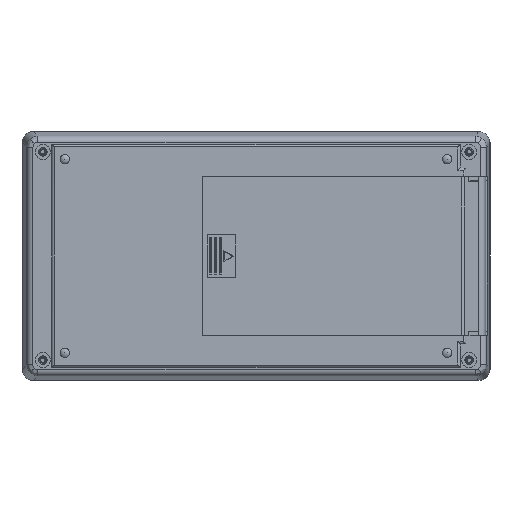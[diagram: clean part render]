
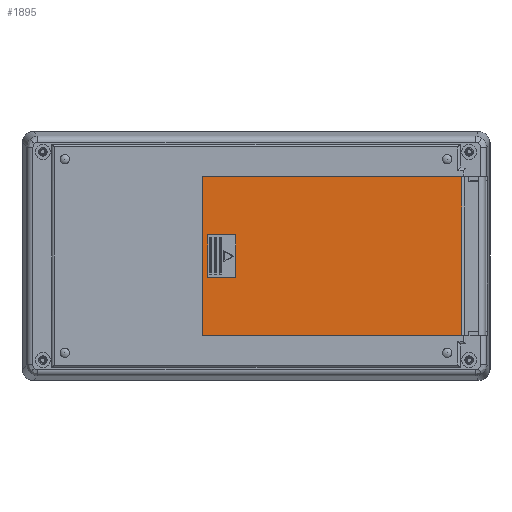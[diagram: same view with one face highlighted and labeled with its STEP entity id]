
A CAD part, front view. The second image highlights one B-rep face of the part: STEP entity #1895.
In plain terms, the highlighted planar face has unit normal (0, -1, 0).
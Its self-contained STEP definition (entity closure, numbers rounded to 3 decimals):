
#919 = VECTOR ( 'NONE', #3408, 1000. ) ;
#1895 = ADVANCED_FACE ( 'NONE', ( #14990, #25616 ), #25798, .F. ) ;
#2335 = EDGE_CURVE ( 'NONE', #18938, #17110, #16964, .T. ) ;
#2356 = DIRECTION ( 'NONE',  ( 0., 0., 1. ) ) ;
#2357 = DIRECTION ( 'NONE',  ( 0., 1., 0. ) ) ;
#2765 = DIRECTION ( 'NONE',  ( 1., 0., 0. ) ) ;
#3167 = VERTEX_POINT ( 'NONE', #21483 ) ;
#3408 = DIRECTION ( 'NONE',  ( -1., 0., 0. ) ) ;
#3638 = DIRECTION ( 'NONE',  ( 0., 0., -1. ) ) ;
#3858 = CARTESIAN_POINT ( 'NONE',  ( 25.2, 0., -32.4 ) ) ;
#4180 = DIRECTION ( 'NONE',  ( 1., 0., 0. ) ) ;
#4363 = CARTESIAN_POINT ( 'NONE',  ( 25.2, 0., -32.4 ) ) ;
#4904 = VECTOR ( 'NONE', #2356, 1000. ) ;
#5025 = CARTESIAN_POINT ( 'NONE',  ( 38.7, 0., 8.75 ) ) ;
#5154 = EDGE_CURVE ( 'NONE', #3167, #20604, #20470, .T. ) ;
#5681 = ORIENTED_EDGE ( 'NONE', *, *, #5154, .F. ) ;
#5788 = CARTESIAN_POINT ( 'NONE',  ( 130.956, 0., 32.4 ) ) ;
#5980 = DIRECTION ( 'NONE',  ( 0., 0., -1. ) ) ;
#6869 = VECTOR ( 'NONE', #16808, 1000. ) ;
#7724 = EDGE_LOOP ( 'NONE', ( #8413, #5681, #13397, #27317 ) ) ;
#8159 = CARTESIAN_POINT ( 'NONE',  ( 38.7, 0., 8.75 ) ) ;
#8413 = ORIENTED_EDGE ( 'NONE', *, *, #14093, .T. ) ;
#9046 = VECTOR ( 'NONE', #5980, 1000. ) ;
#9215 = LINE ( 'NONE', #15628, #26276 ) ;
#9752 = VECTOR ( 'NONE', #3638, 1000. ) ;
#9988 = ORIENTED_EDGE ( 'NONE', *, *, #19150, .F. ) ;
#10690 = CARTESIAN_POINT ( 'NONE',  ( 27.2, 0., 8.75 ) ) ;
#10975 = VERTEX_POINT ( 'NONE', #24343 ) ;
#11554 = EDGE_CURVE ( 'NONE', #17110, #17778, #14377, .T. ) ;
#12635 = ORIENTED_EDGE ( 'NONE', *, *, #13127, .F. ) ;
#12859 = DIRECTION ( 'NONE',  ( 0., 0., -1. ) ) ;
#13127 = EDGE_CURVE ( 'NONE', #17778, #16406, #13328, .T. ) ;
#13328 = LINE ( 'NONE', #10690, #18996 ) ;
#13397 = ORIENTED_EDGE ( 'NONE', *, *, #13757, .F. ) ;
#13708 = ORIENTED_EDGE ( 'NONE', *, *, #2335, .F. ) ;
#13757 = EDGE_CURVE ( 'NONE', #10975, #3167, #9215, .T. ) ;
#13962 = LINE ( 'NONE', #3858, #6869 ) ;
#13984 = EDGE_LOOP ( 'NONE', ( #15177, #13708, #9988, #12635 ) ) ;
#14093 = EDGE_CURVE ( 'NONE', #26931, #20604, #13962, .T. ) ;
#14377 = LINE ( 'NONE', #5025, #919 ) ;
#14986 = CARTESIAN_POINT ( 'NONE',  ( 38.7, 0., -8.75 ) ) ;
#14990 = FACE_BOUND ( 'NONE', #13984, .T. ) ;
#15177 = ORIENTED_EDGE ( 'NONE', *, *, #11554, .F. ) ;
#15628 = CARTESIAN_POINT ( 'NONE',  ( 25.2, 0., 32.4 ) ) ;
#16125 = AXIS2_PLACEMENT_3D ( 'NONE', #19393, #2357, #17360 ) ;
#16406 = VERTEX_POINT ( 'NONE', #17885 ) ;
#16581 = CARTESIAN_POINT ( 'NONE',  ( 25.2, 0., 32.4 ) ) ;
#16718 = VECTOR ( 'NONE', #4180, 1000. ) ;
#16808 = DIRECTION ( 'NONE',  ( 1., 0., 0. ) ) ;
#16964 = LINE ( 'NONE', #19485, #4904 ) ;
#17029 = CARTESIAN_POINT ( 'NONE',  ( 130.956, 0., -32.4 ) ) ;
#17110 = VERTEX_POINT ( 'NONE', #8159 ) ;
#17360 = DIRECTION ( 'NONE',  ( 0., 0., 1. ) ) ;
#17778 = VERTEX_POINT ( 'NONE', #23454 ) ;
#17885 = CARTESIAN_POINT ( 'NONE',  ( 27.2, 0., -8.75 ) ) ;
#18938 = VERTEX_POINT ( 'NONE', #24654 ) ;
#18996 = VECTOR ( 'NONE', #12859, 1000. ) ;
#19150 = EDGE_CURVE ( 'NONE', #16406, #18938, #21707, .T. ) ;
#19393 = CARTESIAN_POINT ( 'NONE',  ( 25.2, 0., 32.4 ) ) ;
#19485 = CARTESIAN_POINT ( 'NONE',  ( 38.7, 0., 8.75 ) ) ;
#20470 = LINE ( 'NONE', #5788, #9046 ) ;
#20604 = VERTEX_POINT ( 'NONE', #17029 ) ;
#21149 = LINE ( 'NONE', #16581, #9752 ) ;
#21483 = CARTESIAN_POINT ( 'NONE',  ( 130.956, 0., 32.4 ) ) ;
#21707 = LINE ( 'NONE', #14986, #16718 ) ;
#23454 = CARTESIAN_POINT ( 'NONE',  ( 27.2, 0., 8.75 ) ) ;
#24343 = CARTESIAN_POINT ( 'NONE',  ( 25.2, 0., 32.4 ) ) ;
#24654 = CARTESIAN_POINT ( 'NONE',  ( 38.7, 0., -8.75 ) ) ;
#25469 = EDGE_CURVE ( 'NONE', #10975, #26931, #21149, .T. ) ;
#25616 = FACE_OUTER_BOUND ( 'NONE', #7724, .T. ) ;
#25798 = PLANE ( 'NONE',  #16125 ) ;
#26276 = VECTOR ( 'NONE', #2765, 1000. ) ;
#26931 = VERTEX_POINT ( 'NONE', #4363 ) ;
#27317 = ORIENTED_EDGE ( 'NONE', *, *, #25469, .T. ) ;
